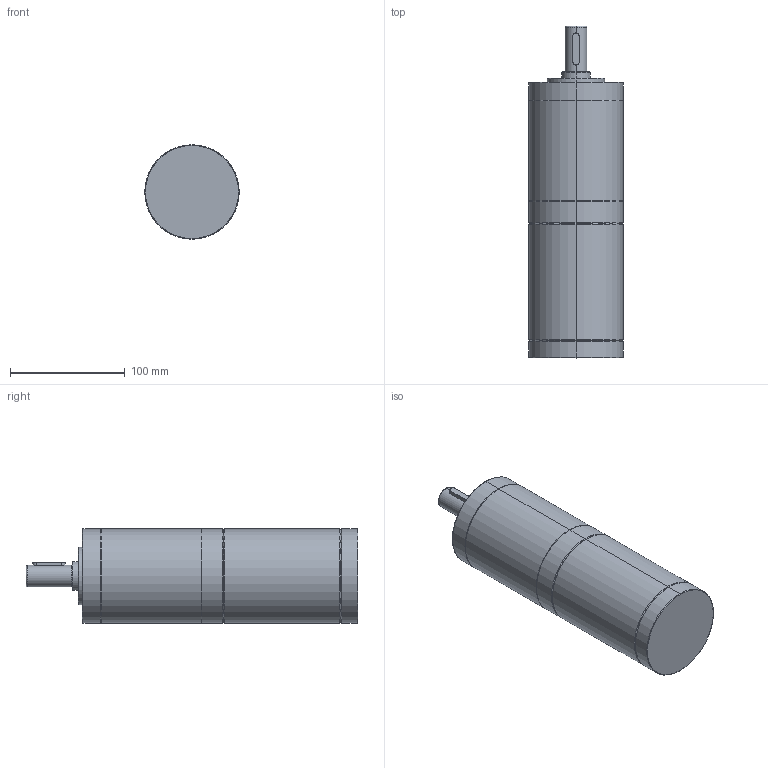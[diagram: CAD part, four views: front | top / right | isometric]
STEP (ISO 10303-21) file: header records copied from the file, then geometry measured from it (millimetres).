
FILE_DESCRIPTION (( 'STEP AP203' ), '1' );
FILE_NAME ('Z82BLDPN300W减速比三级整机.STEP', '2021-07-16T05:18:49', ( '' ), ( '' ), 'SwSTEP 2.0', 'SolidWorks 2021', '' );
FILE_SCHEMA (( 'CONFIG_CONTROL_DESIGN' ));
Length unit declared in the file: millimetre
Products named in the file (3): 82酗; 82PN三级; Z82BLDPN300W减速比三级整机
Assembly tree (2 placements, depth 2):
  Z82BLDPN300W减速比三级整机
    82PN三级
    82酗
Bounding box: 82 x 288.7 x 82 mm (x, y, z)
Volume: 1272009.1 mm3; surface area: 90185 mm2
Topology: 2 solids, 2 shells, 155 faces, 337 edges, 199 vertices
Faces by surface type: cylinder 50, plane 49, cone 32, bspline 20, torus 4
Entity records: 4704 total; most frequent: CARTESIAN_POINT 1106, DIRECTION 725, ORIENTED_EDGE 654, EDGE_CURVE 327, AXIS2_PLACEMENT_3D 282, VERTEX_POINT 199, EDGE_LOOP 178, VECTOR 161
